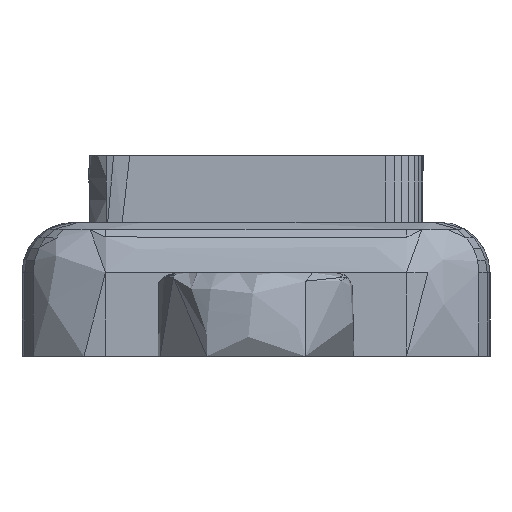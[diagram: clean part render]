
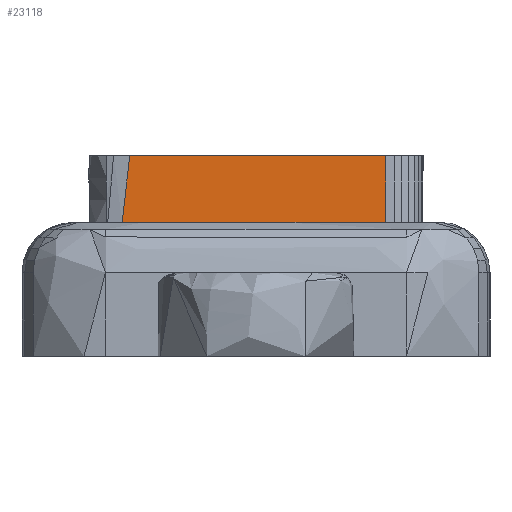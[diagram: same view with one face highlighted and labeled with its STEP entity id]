
A CAD part, left-side view. The second image highlights one B-rep face of the part: STEP entity #23118.
In plain terms, the highlighted planar face has unit normal (-1, 0, -0.003).
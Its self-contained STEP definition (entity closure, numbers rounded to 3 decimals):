
#185 = PLANE('',#186);
#186 = AXIS2_PLACEMENT_3D('',#187,#188,#189);
#187 = CARTESIAN_POINT('',(75.168,7.295,4.
    ));
#188 = DIRECTION('',(0.,0.,
    -1.));
#189 = DIRECTION('',(0.,-1.,
    0.));
#16074 = VERTEX_POINT('',#16075);
#16075 = CARTESIAN_POINT('',(38.567,3.118,
    4.));
#16089 = PLANE('',#16090);
#16090 = AXIS2_PLACEMENT_3D('',#16091,#16092,#16093);
#16091 = CARTESIAN_POINT('',(38.586,2.946,
    4.667));
#16092 = DIRECTION('',(-0.994,-0.11,0.));
#16093 = DIRECTION('',(0.,0.,1.));
#16101 = EDGE_CURVE('',#16074,#16102,#16104,.T.);
#16102 = VERTEX_POINT('',#16103);
#16103 = CARTESIAN_POINT('',(38.573,11.004,
    4.));
#16104 = SURFACE_CURVE('',#16105,(#16109,#16116),.PCURVE_S1.);
#16105 = LINE('',#16106,#16107);
#16106 = CARTESIAN_POINT('',(38.567,3.118,
    4.));
#16107 = VECTOR('',#16108,1.);
#16108 = DIRECTION('',(0.001,1.,
    0.));
#16109 = PCURVE('',#185,#16110);
#16110 = DEFINITIONAL_REPRESENTATION('',(#16111),#16115);
#16111 = LINE('',#16112,#16113);
#16112 = CARTESIAN_POINT('',(4.178,36.6));
#16113 = VECTOR('',#16114,1.);
#16114 = DIRECTION('',(-1.,-0.001));
#16115 = ( GEOMETRIC_REPRESENTATION_CONTEXT(2) 
PARAMETRIC_REPRESENTATION_CONTEXT() REPRESENTATION_CONTEXT('2D SPACE',''
  ) );
#16116 = PCURVE('',#16117,#16122);
#16117 = PLANE('',#16118);
#16118 = AXIS2_PLACEMENT_3D('',#16119,#16120,#16121);
#16119 = CARTESIAN_POINT('',(38.57,8.914,
    5.));
#16120 = DIRECTION('',(1.,0.,
    0.003));
#16121 = DIRECTION('',(-0.003,0.,1.));
#16122 = DEFINITIONAL_REPRESENTATION('',(#16123),#16126);
#16123 = B_SPLINE_CURVE_WITH_KNOTS('',1,(#16124,#16125),.UNSPECIFIED.,
  .F.,.F.,(2,2),(0.,7.886),.PIECEWISE_BEZIER_KNOTS.);
#16124 = CARTESIAN_POINT('',(-1.,5.797));
#16125 = CARTESIAN_POINT('',(-1.,-2.09));
#16126 = ( GEOMETRIC_REPRESENTATION_CONTEXT(2) 
PARAMETRIC_REPRESENTATION_CONTEXT() REPRESENTATION_CONTEXT('2D SPACE',''
  ) );
#16144 = PLANE('',#16145);
#16145 = AXIS2_PLACEMENT_3D('',#16146,#16147,#16148);
#16146 = CARTESIAN_POINT('',(38.609,11.126,
    5.));
#16147 = DIRECTION('',(0.986,-0.168,0.001
    ));
#16148 = DIRECTION('',(-0.001,0.,
    1.));
#22648 = PLANE('',#22649);
#22649 = AXIS2_PLACEMENT_3D('',#22650,#22651,#22652);
#22650 = CARTESIAN_POINT('',(43.355,7.107,
    6.));
#22651 = DIRECTION('',(0.,0.,1.));
#22652 = DIRECTION('',(0.,1.,0.));
#23077 = EDGE_CURVE('',#16102,#23078,#23080,.T.);
#23078 = VERTEX_POINT('',#23079);
#23079 = CARTESIAN_POINT('',(38.567,10.777,
    6.));
#23080 = SURFACE_CURVE('',#23081,(#23085,#23091),.PCURVE_S1.);
#23081 = LINE('',#23082,#23083);
#23082 = CARTESIAN_POINT('',(38.573,11.004,
    4.));
#23083 = VECTOR('',#23084,1.);
#23084 = DIRECTION('',(-0.003,-0.113,
    0.994));
#23085 = PCURVE('',#16144,#23086);
#23086 = DEFINITIONAL_REPRESENTATION('',(#23087),#23090);
#23087 = B_SPLINE_CURVE_WITH_KNOTS('',1,(#23088,#23089),.UNSPECIFIED.,
  .F.,.F.,(2,2),(0.,2.013),.PIECEWISE_BEZIER_KNOTS.);
#23088 = CARTESIAN_POINT('',(-1.,0.126));
#23089 = CARTESIAN_POINT('',(1.,0.351));
#23090 = ( GEOMETRIC_REPRESENTATION_CONTEXT(2) 
PARAMETRIC_REPRESENTATION_CONTEXT() REPRESENTATION_CONTEXT('2D SPACE',''
  ) );
#23091 = PCURVE('',#16117,#23092);
#23092 = DEFINITIONAL_REPRESENTATION('',(#23093),#23097);
#23093 = LINE('',#23094,#23095);
#23094 = CARTESIAN_POINT('',(-1.,-2.09));
#23095 = VECTOR('',#23096,1.);
#23096 = DIRECTION('',(0.994,0.113));
#23097 = ( GEOMETRIC_REPRESENTATION_CONTEXT(2) 
PARAMETRIC_REPRESENTATION_CONTEXT() REPRESENTATION_CONTEXT('2D SPACE',''
  ) );
#23118 = ADVANCED_FACE('',(#23119),#16117,.F.);
#23119 = FACE_BOUND('',#23120,.T.);
#23120 = EDGE_LOOP('',(#23121,#23122,#23123,#23145));
#23121 = ORIENTED_EDGE('',*,*,#23077,.F.);
#23122 = ORIENTED_EDGE('',*,*,#16101,.F.);
#23123 = ORIENTED_EDGE('',*,*,#23124,.T.);
#23124 = EDGE_CURVE('',#16074,#23125,#23127,.T.);
#23125 = VERTEX_POINT('',#23126);
#23126 = CARTESIAN_POINT('',(38.567,3.121,
    6.));
#23127 = SURFACE_CURVE('',#23128,(#23132,#23138),.PCURVE_S1.);
#23128 = LINE('',#23129,#23130);
#23129 = CARTESIAN_POINT('',(38.567,3.118,
    4.));
#23130 = VECTOR('',#23131,1.);
#23131 = DIRECTION('',(0.,0.002,
    1.));
#23132 = PCURVE('',#16117,#23133);
#23133 = DEFINITIONAL_REPRESENTATION('',(#23134),#23137);
#23134 = B_SPLINE_CURVE_WITH_KNOTS('',1,(#23135,#23136),.UNSPECIFIED.,
  .F.,.F.,(2,2),(0.,2.),.PIECEWISE_BEZIER_KNOTS.);
#23135 = CARTESIAN_POINT('',(-1.,5.797));
#23136 = CARTESIAN_POINT('',(1.,5.793));
#23137 = ( GEOMETRIC_REPRESENTATION_CONTEXT(2) 
PARAMETRIC_REPRESENTATION_CONTEXT() REPRESENTATION_CONTEXT('2D SPACE',''
  ) );
#23138 = PCURVE('',#16089,#23139);
#23139 = DEFINITIONAL_REPRESENTATION('',(#23140),#23144);
#23140 = LINE('',#23141,#23142);
#23141 = CARTESIAN_POINT('',(-0.666,0.172));
#23142 = VECTOR('',#23143,1.);
#23143 = DIRECTION('',(1.,0.002));
#23144 = ( GEOMETRIC_REPRESENTATION_CONTEXT(2) 
PARAMETRIC_REPRESENTATION_CONTEXT() REPRESENTATION_CONTEXT('2D SPACE',''
  ) );
#23145 = ORIENTED_EDGE('',*,*,#23146,.T.);
#23146 = EDGE_CURVE('',#23125,#23078,#23147,.T.);
#23147 = SURFACE_CURVE('',#23148,(#23152,#23159),.PCURVE_S1.);
#23148 = LINE('',#23149,#23150);
#23149 = CARTESIAN_POINT('',(38.567,3.121,
    6.));
#23150 = VECTOR('',#23151,1.);
#23151 = DIRECTION('',(0.,1.,0.));
#23152 = PCURVE('',#16117,#23153);
#23153 = DEFINITIONAL_REPRESENTATION('',(#23154),#23158);
#23154 = LINE('',#23155,#23156);
#23155 = CARTESIAN_POINT('',(1.,5.793));
#23156 = VECTOR('',#23157,1.);
#23157 = DIRECTION('',(0.,-1.));
#23158 = ( GEOMETRIC_REPRESENTATION_CONTEXT(2) 
PARAMETRIC_REPRESENTATION_CONTEXT() REPRESENTATION_CONTEXT('2D SPACE',''
  ) );
#23159 = PCURVE('',#22648,#23160);
#23160 = DEFINITIONAL_REPRESENTATION('',(#23161),#23165);
#23161 = LINE('',#23162,#23163);
#23162 = CARTESIAN_POINT('',(-3.985,4.788));
#23163 = VECTOR('',#23164,1.);
#23164 = DIRECTION('',(1.,0.));
#23165 = ( GEOMETRIC_REPRESENTATION_CONTEXT(2) 
PARAMETRIC_REPRESENTATION_CONTEXT() REPRESENTATION_CONTEXT('2D SPACE',''
  ) );
